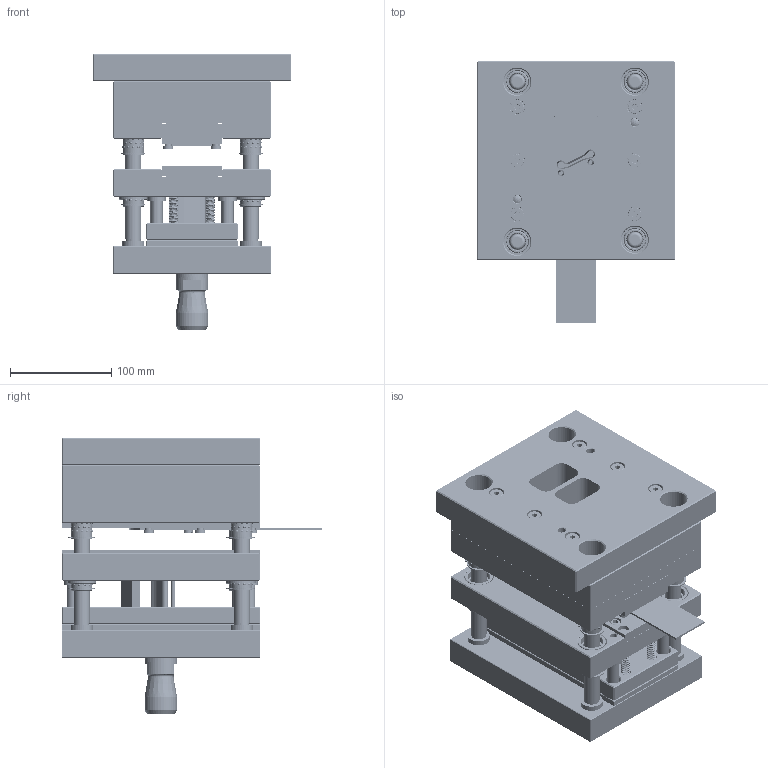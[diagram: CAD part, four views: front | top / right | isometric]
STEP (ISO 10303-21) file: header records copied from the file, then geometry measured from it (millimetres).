
FILE_DESCRIPTION((''),'2;1');
FILE_NAME('E:\Formulaire-2014-01-15 pour envoi\etudeDecoupage\outil_a_suivre - corrigé\Outil complet.stp','2014-05-24T16:07:22',('DF'),(''),'Autodesk Inventor 2013','Autodesk Inventor 2013','');
FILE_SCHEMA(('AUTOMOTIVE_DESIGN { 1 0 10303 214 1 1 1 1 }'));
Length unit declared in the file: millimetre
Products named in the file (43): Outil complet; squelette; bloc inférieur; Semelle standard der; Porte-matrice standard der; bague porte-matrice der; Goupille der; chc_8x35; Matrice der; chc 6x25; pion guide-bande; vis-axe lamelle ressort; Lamelle ressort active; douille_a_bille_longue der; douille longue der; billes longue der; anneau elastique der; Bloc supérieur; Plaque supérieure der; Plaque de choc der; Porte-poinçons der; ColonneØ16x120 der; VisTFM8x25; Rondelle colonne der; Nez der; goupille couteau et cambrage; poinçon poste 1; poinçon poste 2; goupille trancheur; poinçon poste 5; Bloc dévêtisseur; dévêtisseur der; bague dévêtisseur der; EntretoiseSN1510 der; Rondelle SN1510 der; chc_8x60; Plaque dévêtisseuse der; chc 6x20; goupille8L28der; douille_a_bille_courte der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
Assembly tree (106 placements, depth 3):
  Outil complet
    squelette
    bloc inférieur
      Semelle standard der
      Porte-matrice standard der
      bague porte-matrice der  x4
      Goupille der  x3
      chc_8x35  x6
      Matrice der
      chc 6x25  x4
      pion guide-bande  x5
      vis-axe lamelle ressort
      Lamelle ressort active
    douille_a_bille_longue der  x4
      douille longue der
      billes longue der
      anneau elastique der
    Bloc supérieur
      Plaque supérieure der
      Plaque de choc der
      Porte-poinçons der
      Goupille der  x2
      chc_8x35  x6
      ColonneØ16x120 der  x4
      VisTFM8x25  x4
      Rondelle colonne der  x4
      Nez der
      goupille couteau et cambrage
      poinçon poste 1  x2
      poinçon poste 2
      goupille trancheur
      poinçon poste 5
    Bloc dévêtisseur
      dévêtisseur der
      bague dévêtisseur der  x4
      EntretoiseSN1510 der  x4
      Rondelle SN1510 der  x8
      chc_8x60  x4
      Plaque dévêtisseuse der
      chc 6x20  x4
      goupille8L28der
    douille_a_bille_courte der  x4
      douille courte der
      billes courte der
      anneau elastique der
    ressort dévêtissage  x4
Bounding box: 196 x 257.59 x 273 mm (x, y, z)
Volume: 4723395.6 mm3; surface area: 885254.8 mm2
Topology: 921 solids, 921 shells, 3709 faces, 11194 edges, 7760 vertices
Faces by surface type: sphere 1644, plane 945, cylinder 651, cone 438, torus 27, bspline 4
Full cylindrical faces by diameter (mm): 2 x16, 3.2 x1, 3.242 x1, 3.566 x4, 3.576 x2, 3.646 x2, 4 x17, 4.01 x4, 4.917 x4, 5 x1, 5.9 x2, 6 x8, 6.271 x2, 6.5 x4, 6.647 x28, 6.9 x1, 7 x11, 8 x55, 8.2 x12, 9 x25, 10 x21, 11 x5, 12 x12, 13 x16, 14 x4, 15 x20, 16 x16, 16.8 x8, 18 x8, 19 x8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
Entity records: 75339 total; most frequent: CARTESIAN_POINT 39019, DIRECTION 6946, ORIENTED_EDGE 5440, EDGE_LOOP 3067, AXIS2_PLACEMENT_3D 2908, EDGE_CURVE 2720, VERTEX_POINT 2381, FACE_OUTER_BOUND 1600
